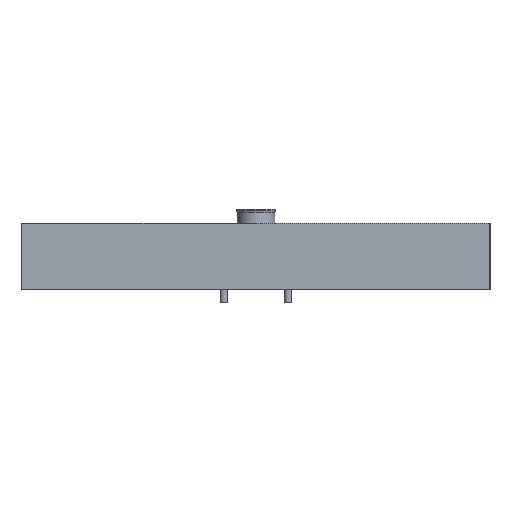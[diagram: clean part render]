
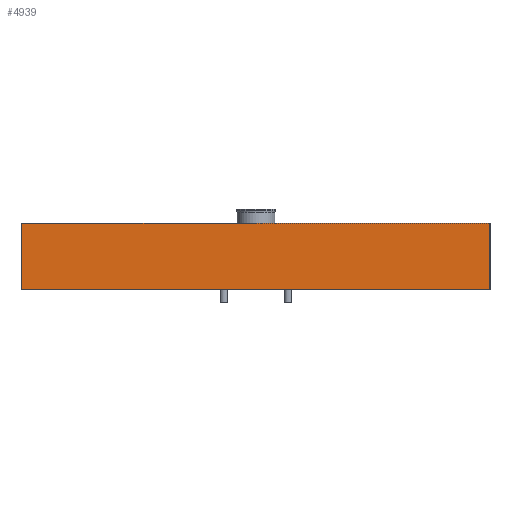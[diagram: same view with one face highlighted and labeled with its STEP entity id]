
A CAD part, left-side view. The second image highlights one B-rep face of the part: STEP entity #4939.
In plain terms, the highlighted planar face has unit normal (-1, 0, 0).
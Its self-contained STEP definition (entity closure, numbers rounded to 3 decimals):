
#4939=ADVANCED_FACE('',(#10038),#10039,.F.);
#10038=FACE_OUTER_BOUND('',#19094,.T.);
#10039=PLANE('',#19095);
#19094=EDGE_LOOP('',(#32327,#32328,#32329,#32330));
#19095=AXIS2_PLACEMENT_3D('',#32331,#32332,#32333);
#32327=ORIENTED_EDGE('',*,*,#36460,.T.);
#32328=ORIENTED_EDGE('',*,*,#36890,.F.);
#32329=ORIENTED_EDGE('',*,*,#32960,.F.);
#32330=ORIENTED_EDGE('',*,*,#36804,.T.);
#32331=CARTESIAN_POINT('',(-348.0,248.0,70.0));
#32332=DIRECTION('',(1.0,0.0,0.0));
#32333=DIRECTION('',(0.0,1.0,0.0));
#32960=EDGE_CURVE('',#38529,#38530,#38531,.T.);
#36460=EDGE_CURVE('',#43743,#43744,#43745,.T.);
#36804=EDGE_CURVE('',#38529,#43743,#44153,.T.);
#36890=EDGE_CURVE('',#38530,#43744,#44252,.T.);
#38529=VERTEX_POINT('',#47043);
#38530=VERTEX_POINT('',#47044);
#38531=LINE('',#47045,#47046);
#43743=VERTEX_POINT('',#56984);
#43744=VERTEX_POINT('',#56985);
#43745=LINE('',#56986,#56987);
#44153=LINE('',#57782,#57783);
#44252=LINE('',#57942,#57943);
#47043=CARTESIAN_POINT('',(-348.0,248.0,70.0));
#47044=CARTESIAN_POINT('',(-348.0,-248.0,70.0));
#47045=CARTESIAN_POINT('',(-348.0,248.0,70.0));
#47046=VECTOR('',#59722,1.0);
#56984=CARTESIAN_POINT('',(-348.0,248.0,0.0));
#56985=CARTESIAN_POINT('',(-348.0,-248.0,0.0));
#56986=CARTESIAN_POINT('',(-348.0,248.0,0.0));
#56987=VECTOR('',#64115,1.0);
#57782=CARTESIAN_POINT('',(-348.0,248.0,70.0));
#57783=VECTOR('',#64436,1.0);
#57942=CARTESIAN_POINT('',(-348.0,-248.0,70.0));
#57943=VECTOR('',#64512,1.0);
#59722=DIRECTION('',(0.0,-1.0,0.0));
#64115=DIRECTION('',(0.0,-1.0,0.0));
#64436=DIRECTION('',(0.0,0.0,-1.0));
#64512=DIRECTION('',(0.0,0.0,-1.0));
